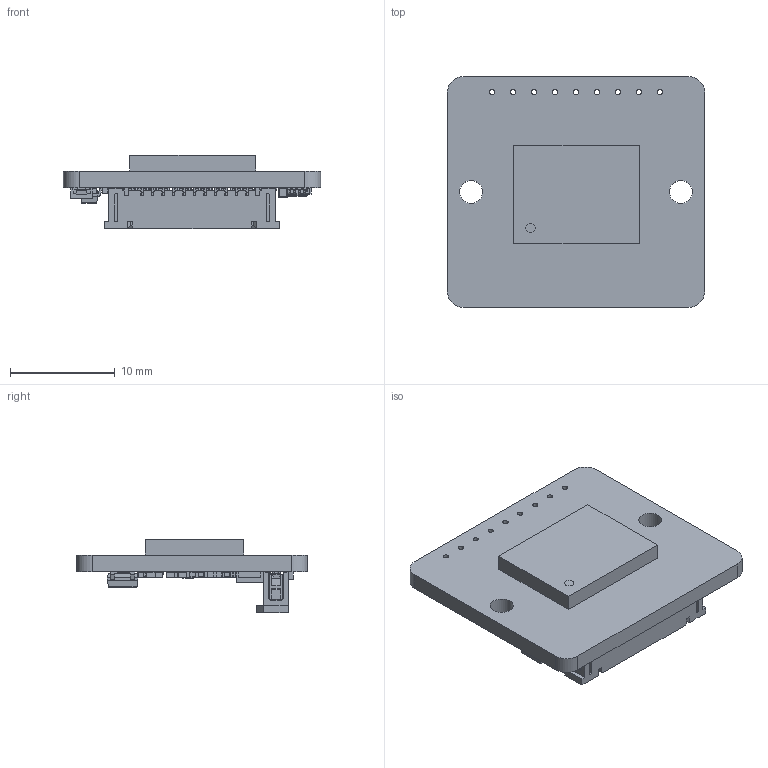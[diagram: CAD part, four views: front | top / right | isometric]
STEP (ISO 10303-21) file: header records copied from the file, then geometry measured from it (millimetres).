
FILE_DESCRIPTION(('Open CASCADE Model'),'2;1');
FILE_NAME('Open CASCADE Shape Model','2023-12-26T21:05:59',('Author'),( 'Open CASCADE'),'Open CASCADE STEP processor 7.5','Open CASCADE 7.5' ,'Unknown');
FILE_SCHEMA(('AUTOMOTIVE_DESIGN { 1 0 10303 214 1 1 1 1 }'));
Length unit declared in the file: millimetre
Products named in the file (100): PCB; Board; Open CASCADE STEP translator 7.5 1.1.1; R12; User Library-d0402h025; R11; C22; User Library-Chip Cap_MLCC_0603 (1608); L8; BLM15AG102SN1D; L7; C25; capacitor_rnd1500402b101k250; C18; C16; C10; C8; L6; 5997846432; D1; 6196950176; SOD523 Lead; SOD523 Lower body; SOD523 Upper body; LED1; User Library-LED_0603_G; Pocket002; Pad004; Fillet; Pocket001; Pad; R14; R13; L2; U7; User Library-SOT363-2 (1); U6; U5; 5997847632; Body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
Assembly tree (151 placements, depth 4):
  PCB
    Board
      Open CASCADE STEP translator 7.5 1.1.1
    R12
      User Library-d0402h025
    R11
      User Library-d0402h025
    C22
      User Library-Chip Cap_MLCC_0603 (1608)
    L8
      BLM15AG102SN1D
    L7
      BLM15AG102SN1D
    C25
      capacitor_rnd1500402b101k250
    C18
      User Library-Chip Cap_MLCC_0603 (1608)
    C16
      capacitor_rnd1500402b101k250
    C10
      capacitor_rnd1500402b101k250
    C8
      User Library-Chip Cap_MLCC_0603 (1608)
    L6
      5997846432
    D1
      6196950176  x2
        SOD523 Lead
        SOD523 Lower body
        SOD523 Upper body
    LED1
      User Library-LED_0603_G
        Pocket002
        Pad004
        Fillet
        Pocket001
        Pad
    R14
      User Library-d0402h025
    R13
      User Library-d0402h025
    L2
      BLM15AG102SN1D
    U7
      User Library-SOT363-2 (1)
    U6
      User Library-SOT363-2 (1)
    U5
      5997847632
        Body
        PinsArrayL
        PinsArrayR
    U4
      5997847632
        Body
        PinsArrayL
        PinsArrayR
    U3
      5997854192
        Body
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Bounding box: 24.5 x 22 x 7.02 mm (x, y, z)
Volume: 1190.7 mm3; surface area: 2310.4 mm2
Topology: 115 solids, 116 shells, 3180 faces, 8249 edges, 5256 vertices
Faces by surface type: plane 2129, cylinder 843, bspline 112, sphere 92, torus 4
Full cylindrical faces by diameter (mm): 0.2 x1, 0.203 x2, 0.5 x9, 2.2 x2
Entity records: 54646 total; most frequent: CARTESIAN_POINT 9457, ORIENTED_EDGE 8654, DIRECTION 8503, EDGE_CURVE 4328, LINE 3729, VECTOR 3729, VERTEX_POINT 2802, AXIS2_PLACEMENT_3D 2387
